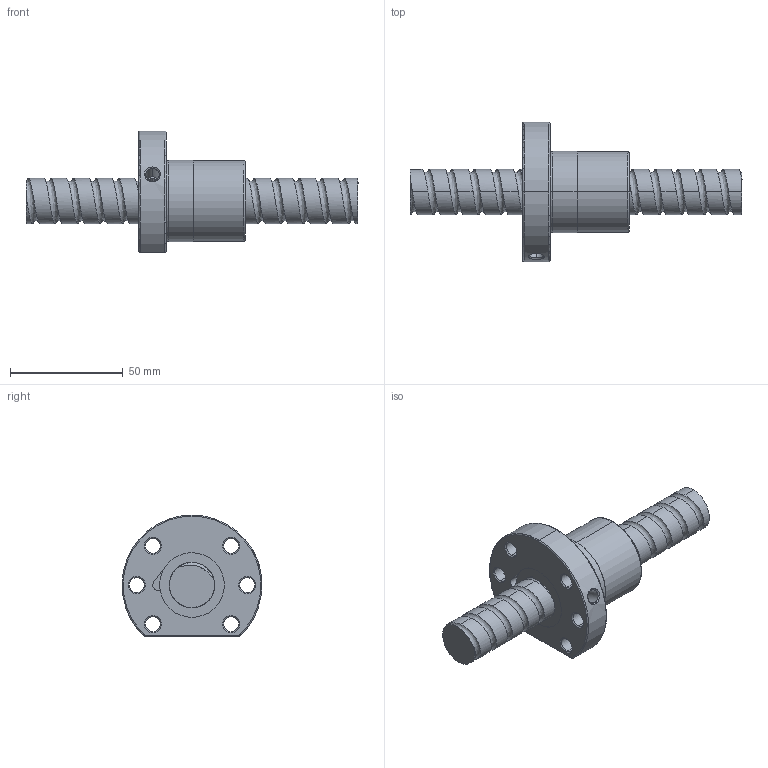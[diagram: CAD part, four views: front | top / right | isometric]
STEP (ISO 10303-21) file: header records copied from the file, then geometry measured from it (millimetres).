
FILE_DESCRIPTION (( 'STEP AP214' ), '1' );
FILE_NAME ('FSDC02010T3-B-B.STEP', '2010-06-25T11:34:20', ( 'XPAUTO' ), ( 'XPAUTO' ), 'SwSTEP 2.0', 'SolidWorks 2007', '' );
FILE_SCHEMA (( 'AUTOMOTIVE_DESIGN' ));
Length unit declared in the file: millimetre
Products named in the file (3): FSDC02010T3-B-B.sldasm-Part-2_預設; FSDC02010T3-B-B; FSDC02010T3-B-B.sldasm-Part-1_預設
Assembly tree (2 placements, depth 2):
  FSDC02010T3-B-B
    FSDC02010T3-B-B.sldasm-Part-1_預設
    FSDC02010T3-B-B.sldasm-Part-2_預設
Bounding box: 147 x 61.98 x 54 mm (x, y, z)
Volume: 94143.3 mm3; surface area: 26449.8 mm2
Topology: 2 solids, 2 shells, 123 faces, 306 edges, 192 vertices
Faces by surface type: cylinder 70, cone 24, plane 19, bspline 5, torus 5
Entity records: 24906 total; most frequent: CARTESIAN_POINT 21962, ORIENTED_EDGE 612, DIRECTION 576, EDGE_CURVE 306, AXIS2_PLACEMENT_3D 235, VERTEX_POINT 192, EDGE_LOOP 144, FACE_OUTER_BOUND 123
